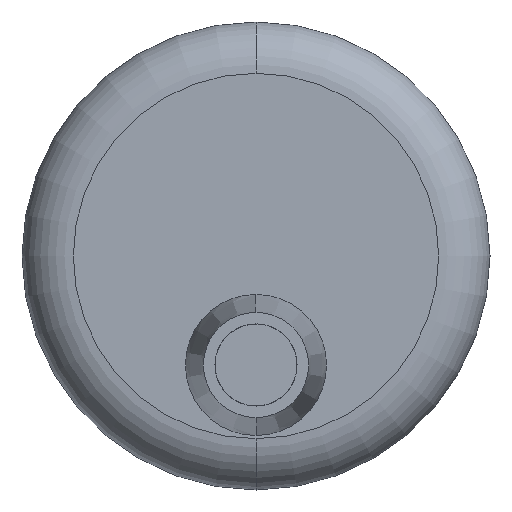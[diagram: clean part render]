
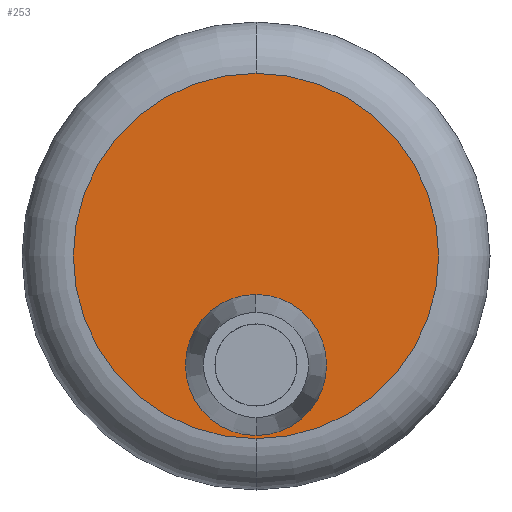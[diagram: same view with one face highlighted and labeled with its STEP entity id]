
A CAD part, front view. The second image highlights one B-rep face of the part: STEP entity #253.
In plain terms, the highlighted planar face has unit normal (0, -1, 0).
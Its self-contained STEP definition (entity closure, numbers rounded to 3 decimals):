
#3 = EDGE_CURVE ( 'NONE', #97, #41, #379, .T. ) ;
#11 = EDGE_CURVE ( 'NONE', #16, #13, #411, .T. ) ;
#13 = VERTEX_POINT ( 'NONE', #373 ) ;
#16 = VERTEX_POINT ( 'NONE', #372 ) ;
#41 = VERTEX_POINT ( 'NONE', #487 ) ;
#97 = VERTEX_POINT ( 'NONE', #451 ) ;
#253 = ADVANCED_FACE ( 'NONE', ( #909, #908 ), #907, .T. ) ;
#257 = EDGE_CURVE ( 'NONE', #13, #16, #901, .T. ) ;
#297 = ORIENTED_EDGE ( 'NONE', *, *, #257, .F. ) ;
#343 = CARTESIAN_POINT ( 'NONE',  ( 0., 0., -8.5 ) ) ;
#362 = EDGE_LOOP ( 'NONE', ( #387, #297 ) ) ;
#363 = ORIENTED_EDGE ( 'NONE', *, *, #429, .T. ) ;
#372 = CARTESIAN_POINT ( 'NONE',  ( 0., 0., 14.25 ) ) ;
#373 = CARTESIAN_POINT ( 'NONE',  ( 0., 0., -14.25 ) ) ;
#376 = DIRECTION ( 'NONE',  ( 0., 0., 1. ) ) ;
#377 = DIRECTION ( 'NONE',  ( 0., 1., 0. ) ) ;
#378 = AXIS2_PLACEMENT_3D ( 'NONE', #343, #377, #376 ) ;
#379 = CIRCLE ( 'NONE', #378, 4.75 ) ;
#386 = ORIENTED_EDGE ( 'NONE', *, *, #3, .T. ) ;
#387 = ORIENTED_EDGE ( 'NONE', *, *, #11, .F. ) ;
#388 = EDGE_LOOP ( 'NONE', ( #386, #363 ) ) ;
#410 = AXIS2_PLACEMENT_3D ( 'NONE', #428, #427, #426 ) ;
#411 = CIRCLE ( 'NONE', #410, 14.25 ) ;
#426 = DIRECTION ( 'NONE',  ( 0., 0., 1. ) ) ;
#427 = DIRECTION ( 'NONE',  ( 0., 1., 0. ) ) ;
#428 = CARTESIAN_POINT ( 'NONE',  ( 0., 0., 0. ) ) ;
#429 = EDGE_CURVE ( 'NONE', #41, #97, #729, .T. ) ;
#451 = CARTESIAN_POINT ( 'NONE',  ( 0., 0., -13.25 ) ) ;
#487 = CARTESIAN_POINT ( 'NONE',  ( 0., 0., -3.75 ) ) ;
#725 = DIRECTION ( 'NONE',  ( 0., 0., 1. ) ) ;
#726 = DIRECTION ( 'NONE',  ( 0., 1., 0. ) ) ;
#727 = CARTESIAN_POINT ( 'NONE',  ( 0., 0., -8.5 ) ) ;
#728 = AXIS2_PLACEMENT_3D ( 'NONE', #727, #726, #725 ) ;
#729 = CIRCLE ( 'NONE', #728, 4.75 ) ;
#897 = DIRECTION ( 'NONE',  ( 0., 0., 1. ) ) ;
#898 = DIRECTION ( 'NONE',  ( 0., 1., 0. ) ) ;
#899 = CARTESIAN_POINT ( 'NONE',  ( 0., 0., 0. ) ) ;
#900 = AXIS2_PLACEMENT_3D ( 'NONE', #899, #898, #897 ) ;
#901 = CIRCLE ( 'NONE', #900, 14.25 ) ;
#903 = DIRECTION ( 'NONE',  ( 0., 0., -1. ) ) ;
#904 = DIRECTION ( 'NONE',  ( 0., -1., 0. ) ) ;
#905 = CARTESIAN_POINT ( 'NONE',  ( -14.25, 0., 0. ) ) ;
#906 = AXIS2_PLACEMENT_3D ( 'NONE', #905, #904, #903 ) ;
#907 = PLANE ( 'NONE',  #906 ) ;
#908 = FACE_BOUND ( 'NONE', #388, .T. ) ;
#909 = FACE_OUTER_BOUND ( 'NONE', #362, .T. ) ;
